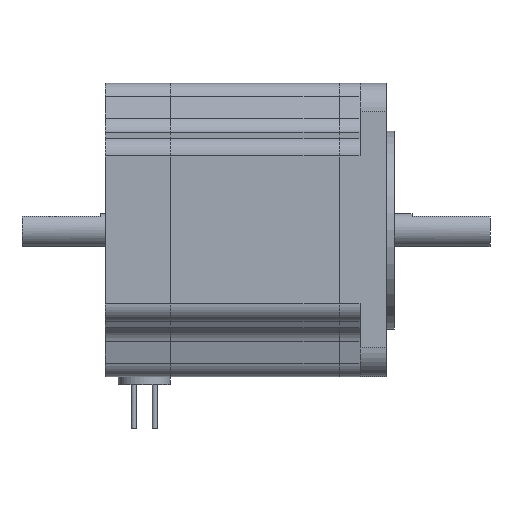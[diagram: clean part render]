
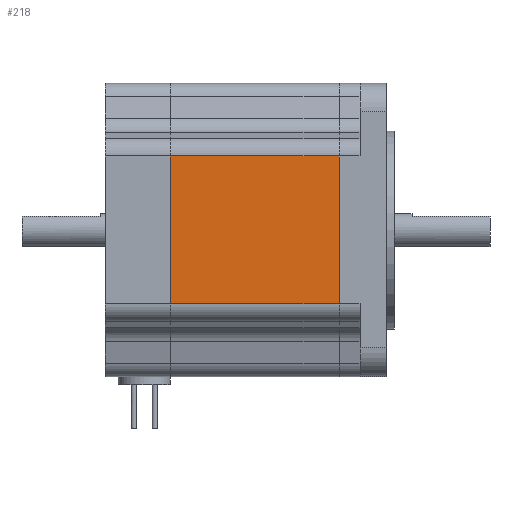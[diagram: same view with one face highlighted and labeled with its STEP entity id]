
A CAD part, top view. The second image highlights one B-rep face of the part: STEP entity #218.
In plain terms, the highlighted planar face has unit normal (0, 0, 1).
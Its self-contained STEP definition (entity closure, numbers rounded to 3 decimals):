
#218 = ADVANCED_FACE( '', ( #549 ), #550, .T. );
#549 = FACE_OUTER_BOUND( '', #922, .T. );
#550 = PLANE( '', #923 );
#922 = EDGE_LOOP( '', ( #2185, #2186, #2187, #2188 ) );
#923 = AXIS2_PLACEMENT_3D( '', #2189, #2190, #2191 );
#2185 = ORIENTED_EDGE( '', *, *, #2679, .T. );
#2186 = ORIENTED_EDGE( '', *, *, #2911, .T. );
#2187 = ORIENTED_EDGE( '', *, *, #2881, .T. );
#2188 = ORIENTED_EDGE( '', *, *, #2908, .F. );
#2189 = CARTESIAN_POINT( '', ( 0., 22.7, 28.2 ) );
#2190 = DIRECTION( '', ( 0., 0., 1. ) );
#2191 = DIRECTION( '', ( 0., 1., 0. ) );
#2679 = EDGE_CURVE( '', #3295, #3293, #3296, .T. );
#2881 = EDGE_CURVE( '', #3638, #3636, #3639, .T. );
#2908 = EDGE_CURVE( '', #3295, #3636, #3680, .T. );
#2911 = EDGE_CURVE( '', #3293, #3638, #3684, .T. );
#3293 = VERTEX_POINT( '', #4192 );
#3295 = VERTEX_POINT( '', #4194 );
#3296 = LINE( '', #4195, #4196 );
#3636 = VERTEX_POINT( '', #4664 );
#3638 = VERTEX_POINT( '', #4666 );
#3639 = LINE( '', #4667, #4668 );
#3680 = LINE( '', #4730, #4731 );
#3684 = LINE( '', #4736, #4737 );
#4192 = CARTESIAN_POINT( '', ( -41.49, -14.2, 28.2 ) );
#4194 = CARTESIAN_POINT( '', ( -41.49, 14.2, 28.2 ) );
#4195 = CARTESIAN_POINT( '', ( -41.49, 11.35, 28.2 ) );
#4196 = VECTOR( '', #5241, 1. );
#4664 = CARTESIAN_POINT( '', ( -9., 14.2, 28.2 ) );
#4666 = CARTESIAN_POINT( '', ( -9., -14.2, 28.2 ) );
#4667 = CARTESIAN_POINT( '', ( -9., 11.35, 28.2 ) );
#4668 = VECTOR( '', #5589, 1. );
#4730 = CARTESIAN_POINT( '', ( -29.5, 14.2, 28.2 ) );
#4731 = VECTOR( '', #5626, 1. );
#4736 = CARTESIAN_POINT( '', ( -29.5, -14.2, 28.2 ) );
#4737 = VECTOR( '', #5631, 1. );
#5241 = DIRECTION( '', ( 0., -1., 0. ) );
#5589 = DIRECTION( '', ( 0., 1., 0. ) );
#5626 = DIRECTION( '', ( 1., 0., 0. ) );
#5631 = DIRECTION( '', ( 1., 0., 0. ) );
